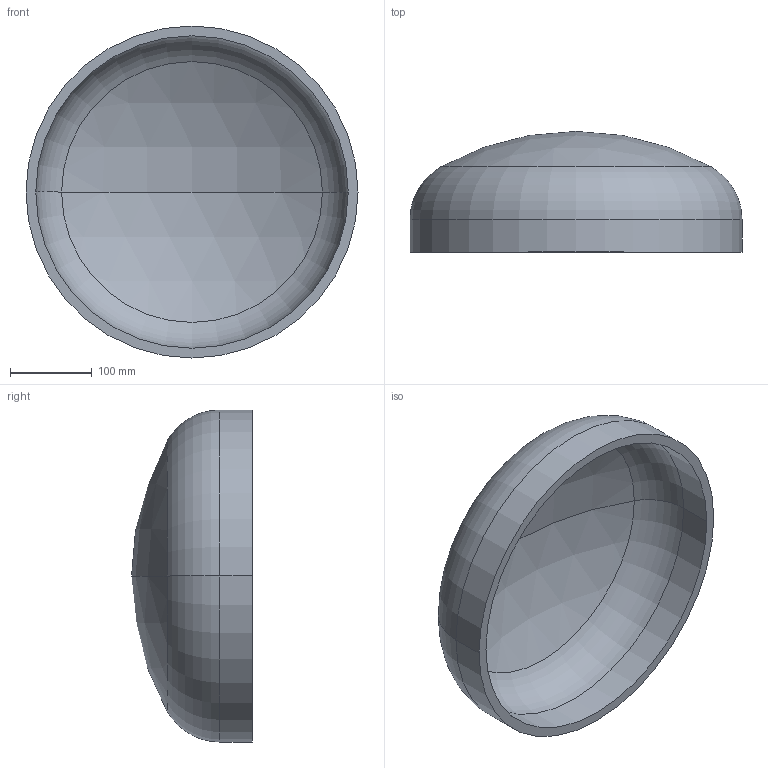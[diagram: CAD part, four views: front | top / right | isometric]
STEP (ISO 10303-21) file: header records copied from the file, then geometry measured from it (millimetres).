
FILE_DESCRIPTION (( 'STEP AP203' ), '1' );
FILE_NAME ('DIN 28013 Korbbogenform_-_Boden DIN 28013 - 406,4 x 40 - I - s=12.step', '2016-07-01T07:49:03', ( '' ), ( '' ), 'SwSTEP 2.0', 'SolidWorks 2013', '' );
FILE_SCHEMA (( 'CONFIG_CONTROL_DESIGN' ));
Length unit declared in the file: millimetre
Products named in the file (1): DIN 28013 Korbbogenform_-_Boden DIN 28013 - 406,4 x 40 - I - s=12
Bounding box: 406.4 x 147.92 x 406.4 mm (x, y, z)
Volume: 2665169.6 mm3; surface area: 459364.9 mm2
Topology: 1 solids, 1 shells, 13 faces, 24 edges, 14 vertices
Faces by surface type: torus 4, cylinder 4, sphere 4, plane 1
Entity records: 407 total; most frequent: DIRECTION 72, CARTESIAN_POINT 52, ORIENTED_EDGE 48, AXIS2_PLACEMENT_3D 34, EDGE_CURVE 24, CIRCLE 20, EDGE_LOOP 14, VERTEX_POINT 14
